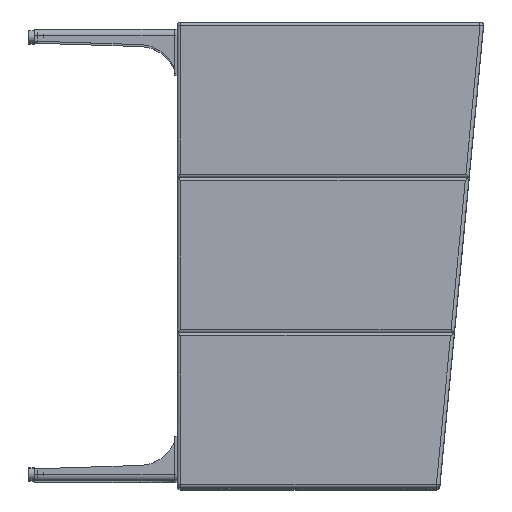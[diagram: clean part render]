
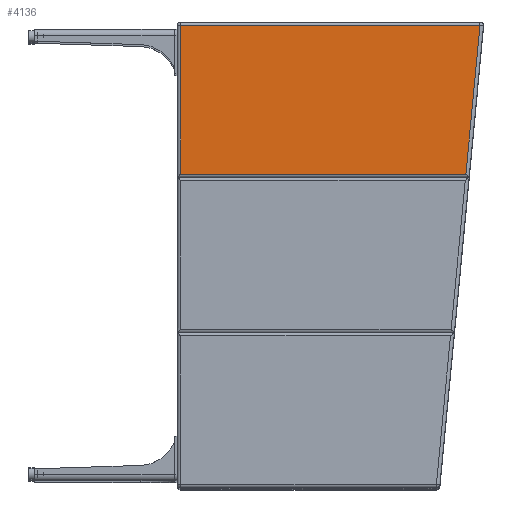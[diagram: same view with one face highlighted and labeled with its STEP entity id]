
A CAD part, top view. The second image highlights one B-rep face of the part: STEP entity #4136.
In plain terms, the highlighted planar face has unit normal (0, 0, 1).
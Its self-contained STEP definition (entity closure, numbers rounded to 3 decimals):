
#368 = EDGE_CURVE ( 'NONE', #809, #489, #10251, .T. ) ;
#489 = VERTEX_POINT ( 'NONE', #10627 ) ;
#784 = EDGE_LOOP ( 'NONE', ( #4207, #4596, #7757, #10314 ) ) ;
#809 = VERTEX_POINT ( 'NONE', #5830 ) ;
#1788 = VECTOR ( 'NONE', #5979, 1000. ) ;
#2743 = VERTEX_POINT ( 'NONE', #7400 ) ;
#3054 = DIRECTION ( 'NONE',  ( 1., 0., 0. ) ) ;
#3224 = AXIS2_PLACEMENT_3D ( 'NONE', #6878, #11172, #10103 ) ;
#3513 = LINE ( 'NONE', #4432, #3795 ) ;
#3636 = PLANE ( 'NONE',  #3224 ) ;
#3795 = VECTOR ( 'NONE', #13267, 1000. ) ;
#4136 = ADVANCED_FACE ( 'NONE', ( #8850 ), #3636, .T. ) ;
#4207 = ORIENTED_EDGE ( 'NONE', *, *, #7104, .T. ) ;
#4432 = CARTESIAN_POINT ( 'NONE',  ( 520., 137.066, 980. ) ) ;
#4596 = ORIENTED_EDGE ( 'NONE', *, *, #13573, .F. ) ;
#4903 = LINE ( 'NONE', #7162, #1788 ) ;
#5720 = VECTOR ( 'NONE', #6255, 1000. ) ;
#5830 = CARTESIAN_POINT ( 'NONE',  ( 6., 137.066, 980. ) ) ;
#5974 = CARTESIAN_POINT ( 'NONE',  ( 6., 395., 980. ) ) ;
#5979 = DIRECTION ( 'NONE',  ( -0.095, -0.996, 0. ) ) ;
#6167 = CARTESIAN_POINT ( 'NONE',  ( 520., 389., 980. ) ) ;
#6255 = DIRECTION ( 'NONE',  ( 0., 1., 0. ) ) ;
#6587 = EDGE_CURVE ( 'NONE', #489, #2743, #9386, .T. ) ;
#6878 = CARTESIAN_POINT ( 'NONE',  ( 520., 0., 980. ) ) ;
#7104 = EDGE_CURVE ( 'NONE', #809, #10796, #3513, .T. ) ;
#7162 = CARTESIAN_POINT ( 'NONE',  ( 439.027, -394.433, 980. ) ) ;
#7400 = CARTESIAN_POINT ( 'NONE',  ( 513.403, 389., 980. ) ) ;
#7757 = ORIENTED_EDGE ( 'NONE', *, *, #6587, .F. ) ;
#8850 = FACE_OUTER_BOUND ( 'NONE', #784, .T. ) ;
#9386 = LINE ( 'NONE', #6167, #12238 ) ;
#10103 = DIRECTION ( 'NONE',  ( -1., 0., 0. ) ) ;
#10251 = LINE ( 'NONE', #5974, #5720 ) ;
#10314 = ORIENTED_EDGE ( 'NONE', *, *, #368, .F. ) ;
#10627 = CARTESIAN_POINT ( 'NONE',  ( 6., 389., 980. ) ) ;
#10796 = VERTEX_POINT ( 'NONE', #13132 ) ;
#11172 = DIRECTION ( 'NONE',  ( 0., 0., 1. ) ) ;
#12238 = VECTOR ( 'NONE', #3054, 1000. ) ;
#13132 = CARTESIAN_POINT ( 'NONE',  ( 489.486, 137.066, 980. ) ) ;
#13267 = DIRECTION ( 'NONE',  ( 1., 0., 0. ) ) ;
#13573 = EDGE_CURVE ( 'NONE', #2743, #10796, #4903, .T. ) ;
